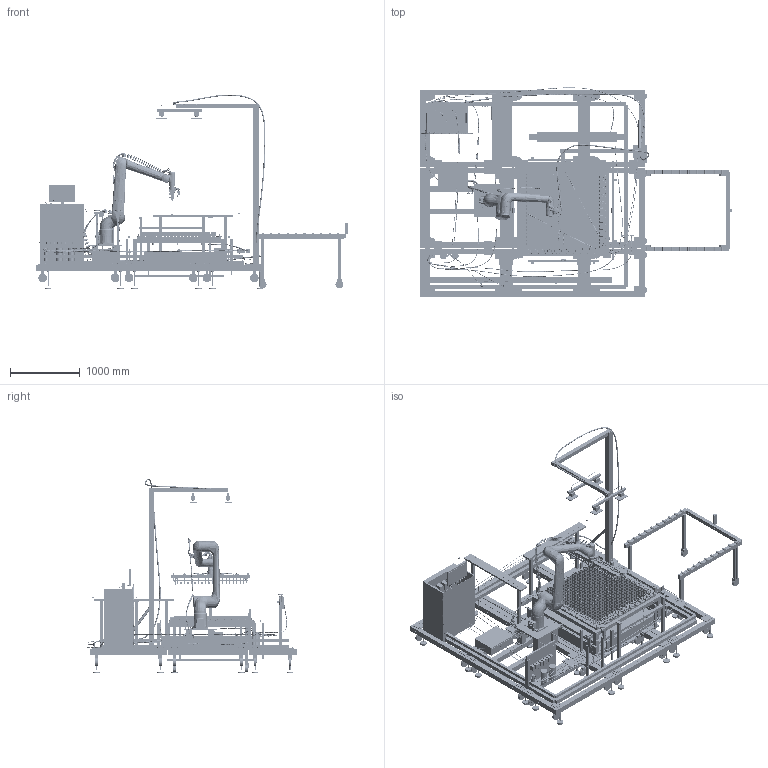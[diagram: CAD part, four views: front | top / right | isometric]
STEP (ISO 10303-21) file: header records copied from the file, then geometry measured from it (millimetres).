
FILE_DESCRIPTION(('Open CASCADE Model'),'2;1');
FILE_NAME('Open CASCADE Shape Model','2026-09-13T21:20:16',('Author'),( 'Open CASCADE'),'Open CASCADE STEP processor 7.8','Open CASCADE 7.8' ,'Unknown');
FILE_SCHEMA(('AUTOMOTIVE_DESIGN { 1 0 10303 214 1 1 1 1 }'));
Length unit declared in the file: millimetre
Products named in the file (473): AETEC_Nomex_RevG_Design_Validation; ROBOT_0001; ROBOT_0002; ROBOT_0003; ROBOT_0004; ROBOT_0005; ROBOT_0006; ROBOT_0007; FIXTURE_0008; FIXTURE_0010; FIXTURE_0012; FIXTURE_0013; FIXTURE_0020; FIXTURE_0021; FIXTURE_0029; FIXTURE_0030; FIXTURE_0031; FIXTURE_0032; FIXTURE_0033; FIXTURE_0034; FIXTURE_0036; FIXTURE_0037; FIXTURE_0038; FIXTURE_0039; FIXTURE_0040; FIXTURE_0061; FIXTURE_0062; FIXTURE_0063; FIXTURE_0064; FIXTURE_0065; FIXTURE_0066; FIXTURE_0067; FIXTURE_0068; FIXTURE_0069; FIXTURE_0070; FIXTURE_0071; FIXTURE_0072; FIXTURE_1373; FIXTURE_1374; FIXTURE_1396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
Assembly tree (3663 placements, depth 2):
  AETEC_Nomex_RevG_Design_Validation
    ROBOT_0001
    ROBOT_0002
    ROBOT_0003
    ROBOT_0004
    ROBOT_0005
    ROBOT_0006
    ROBOT_0007
    FIXTURE_0008  x2
    FIXTURE_0010  x2
    FIXTURE_0012  x4
    FIXTURE_0013  x4
    FIXTURE_0020  x3
    FIXTURE_0021  x6
    FIXTURE_0029  x84
    FIXTURE_0030  x84
    FIXTURE_0031  x84
    FIXTURE_0032  x84
    FIXTURE_0033  x168
    FIXTURE_0034  x84
    FIXTURE_0036  x84
    FIXTURE_0037  x42
    FIXTURE_0038  x48
    FIXTURE_0039  x48
    FIXTURE_0040  x48
    FIXTURE_0061  x42
    FIXTURE_0062  x43
    FIXTURE_0063  x42
    FIXTURE_0064  x42
    FIXTURE_0065  x42
    FIXTURE_0066  x42
    FIXTURE_0067  x42
    FIXTURE_0068  x42
    FIXTURE_0069  x42
    FIXTURE_0070  x42
    FIXTURE_0071  x42
    FIXTURE_0072  x42
    FIXTURE_1373  x3
    FIXTURE_1374  x66
    FIXTURE_1396  x6
    FIXTURE_1448  x28
    FIXTURE_1449  x28
    FIXTURE_1490  x2
    FIXTURE_1492  x2
    FIXTURE_1494  x84
    FIXTURE_1578
    FIXTURE_1579
    FIXTURE_1580
    FIXTURE_1581
    FIXTURE_1582
    FIXTURE_1583
    FIXTURE_1584
    FIXTURE_1585
    FIXTURE_1586
    FIXTURE_1587
    FIXTURE_1588
    FIXTURE_1589
    FIXTURE_1590
    FIXTURE_1591
    FIXTURE_1592
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Bounding box: 4480.65 x 3005.21 x 2800.14 mm (x, y, z)
Volume: 750836343 mm3; surface area: 68150567 mm2
Topology: 3662 solids, 3663 shells, 23616 faces, 47868 edges, 31775 vertices
Faces by surface type: plane 19736, cylinder 2025, bspline 1544, cone 240, torus 69, sphere 2
Full cylindrical faces by diameter (mm): 3 x42, 5 x125, 6 x48, 6.6 x6, 7 x2, 8 x294, 9 x144, 9.9 x48, 10 x131, 12 x60, 13.2 x144, 14 x6, 16 x161, 16.5 x88, 18 x2, 20 x146, 24 x1, 26 x8, 30 x22, 34 x4, 36 x46, 40 x1, 44 x37, 60 x1, 68 x1, 76 x2, 80 x1, 94 x36, 96 x1, 98 x2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
Entity records: 1074842 total; most frequent: CARTESIAN_POINT 864666, DIRECTION 32867, ORIENTED_EDGE 19160, PCURVE 19160, DEFINITIONAL_REPRESENTATION 19160, LINE 16463, VECTOR 16463, EDGE_CURVE 9581
